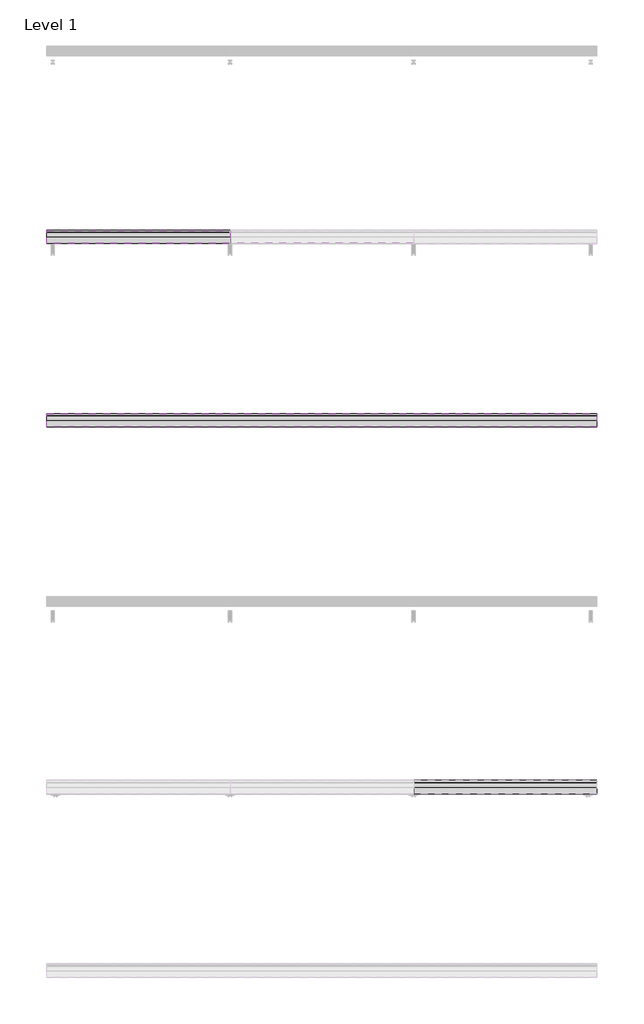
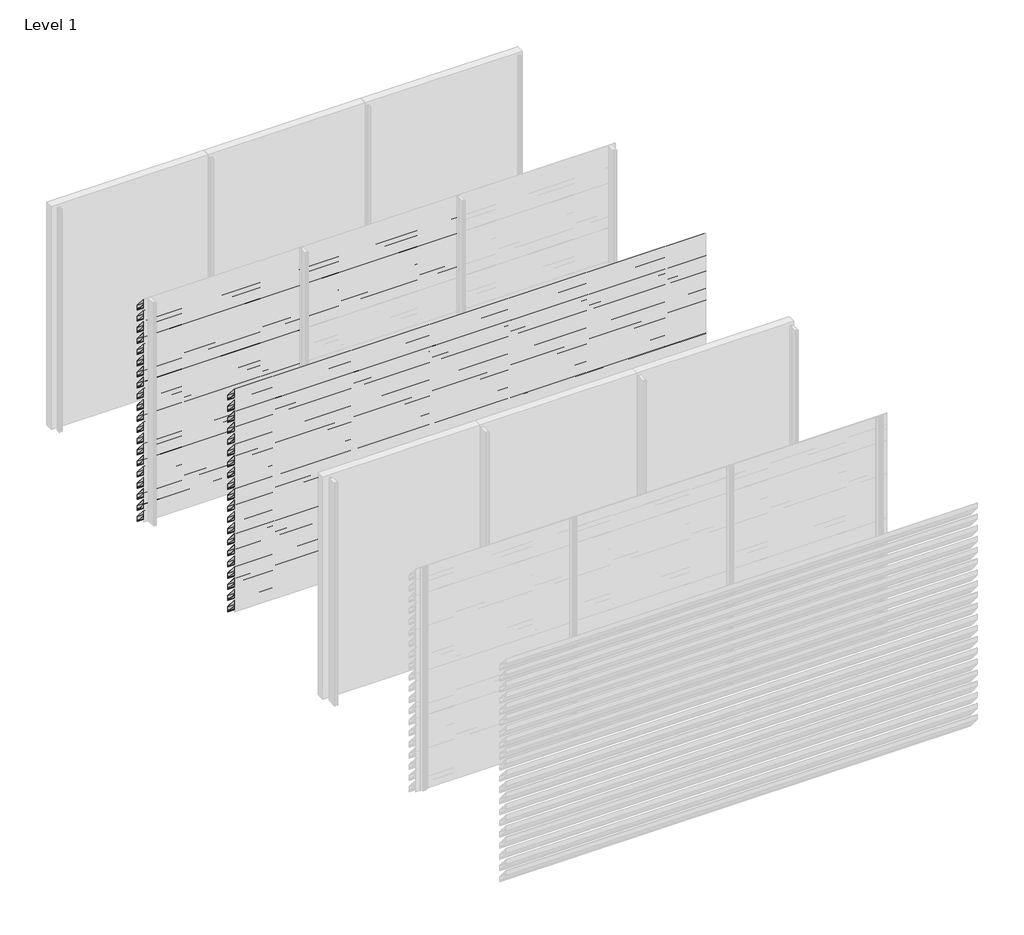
# One storey, part 4 of 16: 56 proxies.
"""IFC4 building model written with IfcOpenShell, lengths in millimetres."""

from ifc_helpers import new_model, si_unit, frame, origin, place, context, project, spatial, polyline, outline, extrude, element, save

model = new_model("IFC4")

# Units and contexts
model_context = context("Model", 3, world=origin())
ifc_project = project(units=[si_unit("LENGTHUNIT", "METRE", prefix="MILLI")], contexts=[model_context])

# Site, building, storey
site = spatial("IfcSite", under=ifc_project)
building = spatial("IfcBuilding", under=site)
storey = spatial("IfcBuildingStorey", under=building, Name="Level 1", Elevation=0.0)

# Proxies
placement = place(None, origin())
element("IfcBuildingElementProxy", 1, Name="Wall Sweeps", at=placement, inside=storey, context=model_context, shape_type="SweptSolid", body=[
    extrude(outline(polyline([(-47851.0, 2830.0), (-47851.0, 2761.0), (-47853.5, 2762.1657691), (-47853.5, 2775.7059843), (-47870.2498671, 2795.6676986), (-47880.9351065, 2795.6676986), (-47998.0, 2935.1802059), (-47998.0, 3000.0), (-47993.6469373, 3000.0), (-47851.0, 2830.0)]), holes=[polyline([(-47996.1, 2998.1), (-47996.1, 2935.8717493), (-47880.049122, 2797.5676986), (-47869.3638825, 2797.5676986), (-47852.9, 2777.9468074), (-47852.9, 2829.3084566), (-47994.5329219, 2998.1), (-47996.1, 2998.1)])]), frame((0.0, 0.0, 0.0), z_axis=(1.0, 0.0, 0.0), x_axis=(0.0, 1.0, 0.0)), (0.0, 0.0, 1.0), 2000.0),
])
element("IfcBuildingElementProxy", 2, Name="Wall Sweeps", at=placement, inside=storey, context=model_context, shape_type="SweptSolid", body=[
    extrude(outline(polyline([(-47851.0, 2680.0), (-47851.0, 2611.0), (-47853.5, 2612.1657691), (-47853.5, 2625.7059843), (-47870.2498671, 2645.6676986), (-47880.9351065, 2645.6676986), (-47998.0, 2785.1802059), (-47998.0, 2850.0), (-47993.6469373, 2850.0), (-47851.0, 2680.0)]), holes=[polyline([(-47996.1, 2848.1), (-47996.1, 2785.8717493), (-47880.049122, 2647.5676986), (-47869.3638825, 2647.5676986), (-47852.9, 2627.9468074), (-47852.9, 2679.3084566), (-47994.5329219, 2848.1), (-47996.1, 2848.1)])]), frame((0.0, 0.0, 0.0), z_axis=(1.0, 0.0, 0.0), x_axis=(0.0, 1.0, 0.0)), (0.0, 0.0, 1.0), 2000.0),
])
element("IfcBuildingElementProxy", 3, Name="Wall Sweeps", at=placement, inside=storey, context=model_context, shape_type="SweptSolid", body=[
    extrude(outline(polyline([(-47851.0, 2530.0), (-47851.0, 2461.0), (-47853.5, 2462.1657691), (-47853.5, 2475.7059843), (-47870.2498671, 2495.6676986), (-47880.9351065, 2495.6676986), (-47998.0, 2635.1802059), (-47998.0, 2700.0), (-47993.6469373, 2700.0), (-47851.0, 2530.0)]), holes=[polyline([(-47996.1, 2698.1), (-47996.1, 2635.8717493), (-47880.049122, 2497.5676986), (-47869.3638825, 2497.5676986), (-47852.9, 2477.9468074), (-47852.9, 2529.3084566), (-47994.5329219, 2698.1), (-47996.1, 2698.1)])]), frame((0.0, 0.0, 0.0), z_axis=(1.0, 0.0, 0.0), x_axis=(0.0, 1.0, 0.0)), (0.0, 0.0, 1.0), 2000.0),
])
element("IfcBuildingElementProxy", 4, Name="Wall Sweeps", at=placement, inside=storey, context=model_context, shape_type="SweptSolid", body=[
    extrude(outline(polyline([(-47851.0, 2380.0), (-47851.0, 2311.0), (-47853.5, 2312.1657691), (-47853.5, 2325.7059843), (-47870.2498671, 2345.6676986), (-47880.9351065, 2345.6676986), (-47998.0, 2485.1802059), (-47998.0, 2550.0), (-47993.6469373, 2550.0), (-47851.0, 2380.0)]), holes=[polyline([(-47996.1, 2548.1), (-47996.1, 2485.8717493), (-47880.049122, 2347.5676986), (-47869.3638825, 2347.5676986), (-47852.9, 2327.9468074), (-47852.9, 2379.3084566), (-47994.5329219, 2548.1), (-47996.1, 2548.1)])]), frame((0.0, 0.0, 0.0), z_axis=(1.0, 0.0, 0.0), x_axis=(0.0, 1.0, 0.0)), (0.0, 0.0, 1.0), 2000.0),
])
element("IfcBuildingElementProxy", 5, Name="Wall Sweeps", at=placement, inside=storey, context=model_context, shape_type="SweptSolid", body=[
    extrude(outline(polyline([(-47851.0, 2230.0), (-47851.0, 2161.0), (-47853.5, 2162.1657691), (-47853.5, 2175.7059843), (-47870.2498671, 2195.6676986), (-47880.9351065, 2195.6676986), (-47998.0, 2335.1802059), (-47998.0, 2400.0), (-47993.6469373, 2400.0), (-47851.0, 2230.0)]), holes=[polyline([(-47996.1, 2398.1), (-47996.1, 2335.8717493), (-47880.049122, 2197.5676986), (-47869.3638825, 2197.5676986), (-47852.9, 2177.9468074), (-47852.9, 2229.3084566), (-47994.5329219, 2398.1), (-47996.1, 2398.1)])]), frame((0.0, 0.0, 0.0), z_axis=(1.0, 0.0, 0.0), x_axis=(0.0, 1.0, 0.0)), (0.0, 0.0, 1.0), 2000.0),
])
element("IfcBuildingElementProxy", 6, Name="Wall Sweeps", at=placement, inside=storey, context=model_context, shape_type="SweptSolid", body=[
    extrude(outline(polyline([(-47851.0, 2080.0), (-47851.0, 2011.0), (-47853.5, 2012.1657691), (-47853.5, 2025.7059843), (-47870.2498671, 2045.6676986), (-47880.9351065, 2045.6676986), (-47998.0, 2185.1802059), (-47998.0, 2250.0), (-47993.6469373, 2250.0), (-47851.0, 2080.0)]), holes=[polyline([(-47996.1, 2248.1), (-47996.1, 2185.8717493), (-47880.049122, 2047.5676986), (-47869.3638825, 2047.5676986), (-47852.9, 2027.9468074), (-47852.9, 2079.3084566), (-47994.5329219, 2248.1), (-47996.1, 2248.1)])]), frame((0.0, 0.0, 0.0), z_axis=(1.0, 0.0, 0.0), x_axis=(0.0, 1.0, 0.0)), (0.0, 0.0, 1.0), 2000.0),
])
element("IfcBuildingElementProxy", 7, Name="Wall Sweeps", at=placement, inside=storey, context=model_context, shape_type="SweptSolid", body=[
    extrude(outline(polyline([(-47851.0, 1930.0), (-47851.0, 1861.0), (-47853.5, 1862.1657691), (-47853.5, 1875.7059843), (-47870.2498671, 1895.6676986), (-47880.9351065, 1895.6676986), (-47998.0, 2035.1802059), (-47998.0, 2100.0), (-47993.6469373, 2100.0), (-47851.0, 1930.0)]), holes=[polyline([(-47996.1, 2098.1), (-47996.1, 2035.8717493), (-47880.049122, 1897.5676986), (-47869.3638825, 1897.5676986), (-47852.9, 1877.9468074), (-47852.9, 1929.3084566), (-47994.5329219, 2098.1), (-47996.1, 2098.1)])]), frame((0.0, 0.0, 0.0), z_axis=(1.0, 0.0, 0.0), x_axis=(0.0, 1.0, 0.0)), (0.0, 0.0, 1.0), 2000.0),
])
element("IfcBuildingElementProxy", 8, Name="Wall Sweeps", at=placement, inside=storey, context=model_context, shape_type="SweptSolid", body=[
    extrude(outline(polyline([(-47851.0, 1780.0), (-47851.0, 1711.0), (-47853.5, 1712.1657691), (-47853.5, 1725.7059843), (-47870.2498671, 1745.6676986), (-47880.9351065, 1745.6676986), (-47998.0, 1885.1802059), (-47998.0, 1950.0), (-47993.6469373, 1950.0), (-47851.0, 1780.0)]), holes=[polyline([(-47996.1, 1948.1), (-47996.1, 1885.8717493), (-47880.049122, 1747.5676986), (-47869.3638825, 1747.5676986), (-47852.9, 1727.9468074), (-47852.9, 1779.3084566), (-47994.5329219, 1948.1), (-47996.1, 1948.1)])]), frame((0.0, 0.0, 0.0), z_axis=(1.0, 0.0, 0.0), x_axis=(0.0, 1.0, 0.0)), (0.0, 0.0, 1.0), 2000.0),
])
element("IfcBuildingElementProxy", 9, Name="Wall Sweeps", at=placement, inside=storey, context=model_context, shape_type="SweptSolid", body=[
    extrude(outline(polyline([(-47851.0, 1630.0), (-47851.0, 1561.0), (-47853.5, 1562.1657691), (-47853.5, 1575.7059843), (-47870.2498671, 1595.6676986), (-47880.9351065, 1595.6676986), (-47998.0, 1735.1802059), (-47998.0, 1800.0), (-47993.6469373, 1800.0), (-47851.0, 1630.0)]), holes=[polyline([(-47996.1, 1798.1), (-47996.1, 1735.8717493), (-47880.049122, 1597.5676986), (-47869.3638825, 1597.5676986), (-47852.9, 1577.9468074), (-47852.9, 1629.3084566), (-47994.5329219, 1798.1), (-47996.1, 1798.1)])]), frame((0.0, 0.0, 0.0), z_axis=(1.0, 0.0, 0.0), x_axis=(0.0, 1.0, 0.0)), (0.0, 0.0, 1.0), 2000.0),
])
element("IfcBuildingElementProxy", 10, Name="Wall Sweeps", at=placement, inside=storey, context=model_context, shape_type="SweptSolid", body=[
    extrude(outline(polyline([(-47851.0, 1480.0), (-47851.0, 1411.0), (-47853.5, 1412.1657691), (-47853.5, 1425.7059843), (-47870.2498671, 1445.6676986), (-47880.9351065, 1445.6676986), (-47998.0, 1585.1802059), (-47998.0, 1650.0), (-47993.6469373, 1650.0), (-47851.0, 1480.0)]), holes=[polyline([(-47996.1, 1648.1), (-47996.1, 1585.8717493), (-47880.049122, 1447.5676986), (-47869.3638825, 1447.5676986), (-47852.9, 1427.9468074), (-47852.9, 1479.3084566), (-47994.5329219, 1648.1), (-47996.1, 1648.1)])]), frame((0.0, 0.0, 0.0), z_axis=(1.0, 0.0, 0.0), x_axis=(0.0, 1.0, 0.0)), (0.0, 0.0, 1.0), 2000.0),
])
element("IfcBuildingElementProxy", 11, Name="Wall Sweeps", at=placement, inside=storey, context=model_context, shape_type="SweptSolid", body=[
    extrude(outline(polyline([(-47851.0, 1330.0), (-47851.0, 1261.0), (-47853.5, 1262.1657691), (-47853.5, 1275.7059843), (-47870.2498671, 1295.6676986), (-47880.9351065, 1295.6676986), (-47998.0, 1435.1802059), (-47998.0, 1500.0), (-47993.6469373, 1500.0), (-47851.0, 1330.0)]), holes=[polyline([(-47996.1, 1498.1), (-47996.1, 1435.8717493), (-47880.049122, 1297.5676986), (-47869.3638825, 1297.5676986), (-47852.9, 1277.9468074), (-47852.9, 1329.3084566), (-47994.5329219, 1498.1), (-47996.1, 1498.1)])]), frame((0.0, 0.0, 0.0), z_axis=(1.0, 0.0, 0.0), x_axis=(0.0, 1.0, 0.0)), (0.0, 0.0, 1.0), 2000.0),
])
element("IfcBuildingElementProxy", 12, Name="Wall Sweeps", at=placement, inside=storey, context=model_context, shape_type="SweptSolid", body=[
    extrude(outline(polyline([(-47851.0, 1180.0), (-47851.0, 1111.0), (-47853.5, 1112.1657691), (-47853.5, 1125.7059843), (-47870.2498671, 1145.6676986), (-47880.9351065, 1145.6676986), (-47998.0, 1285.1802059), (-47998.0, 1350.0), (-47993.6469373, 1350.0), (-47851.0, 1180.0)]), holes=[polyline([(-47996.1, 1348.1), (-47996.1, 1285.8717493), (-47880.049122, 1147.5676986), (-47869.3638825, 1147.5676986), (-47852.9, 1127.9468074), (-47852.9, 1179.3084566), (-47994.5329219, 1348.1), (-47996.1, 1348.1)])]), frame((0.0, 0.0, 0.0), z_axis=(1.0, 0.0, 0.0), x_axis=(0.0, 1.0, 0.0)), (0.0, 0.0, 1.0), 2000.0),
])
element("IfcBuildingElementProxy", 13, Name="Wall Sweeps", at=placement, inside=storey, context=model_context, shape_type="SweptSolid", body=[
    extrude(outline(polyline([(-47851.0, 1030.0), (-47851.0, 961.0), (-47853.5, 962.1657691), (-47853.5, 975.7059843), (-47870.2498671, 995.6676986), (-47880.9351065, 995.6676986), (-47998.0, 1135.1802059), (-47998.0, 1200.0), (-47993.6469373, 1200.0), (-47851.0, 1030.0)]), holes=[polyline([(-47996.1, 1198.1), (-47996.1, 1135.8717493), (-47880.049122, 997.5676986), (-47869.3638825, 997.5676986), (-47852.9, 977.9468074), (-47852.9, 1029.3084566), (-47994.5329219, 1198.1), (-47996.1, 1198.1)])]), frame((0.0, 0.0, 0.0), z_axis=(1.0, 0.0, 0.0), x_axis=(0.0, 1.0, 0.0)), (0.0, 0.0, 1.0), 2000.0),
])
element("IfcBuildingElementProxy", 14, Name="Wall Sweeps", at=placement, inside=storey, context=model_context, shape_type="SweptSolid", body=[
    extrude(outline(polyline([(-47851.0, 880.0), (-47851.0, 811.0), (-47853.5, 812.1657691), (-47853.5, 825.7059843), (-47870.2498671, 845.6676986), (-47880.9351065, 845.6676986), (-47998.0, 985.1802059), (-47998.0, 1050.0), (-47993.6469373, 1050.0), (-47851.0, 880.0)]), holes=[polyline([(-47996.1, 1048.1), (-47996.1, 985.8717493), (-47880.049122, 847.5676986), (-47869.3638825, 847.5676986), (-47852.9, 827.9468074), (-47852.9, 879.3084566), (-47994.5329219, 1048.1), (-47996.1, 1048.1)])]), frame((0.0, 0.0, 0.0), z_axis=(1.0, 0.0, 0.0), x_axis=(0.0, 1.0, 0.0)), (0.0, 0.0, 1.0), 2000.0),
])
element("IfcBuildingElementProxy", 15, Name="Wall Sweeps", at=placement, inside=storey, context=model_context, shape_type="SweptSolid", body=[
    extrude(outline(polyline([(-47851.0, 730.0), (-47851.0, 661.0), (-47853.5, 662.1657691), (-47853.5, 675.7059843), (-47870.2498671, 695.6676986), (-47880.9351065, 695.6676986), (-47998.0, 835.1802059), (-47998.0, 900.0), (-47993.6469373, 900.0), (-47851.0, 730.0)]), holes=[polyline([(-47996.1, 898.1), (-47996.1, 835.8717493), (-47880.049122, 697.5676986), (-47869.3638825, 697.5676986), (-47852.9, 677.9468074), (-47852.9, 729.3084566), (-47994.5329219, 898.1), (-47996.1, 898.1)])]), frame((0.0, 0.0, 0.0), z_axis=(1.0, 0.0, 0.0), x_axis=(0.0, 1.0, 0.0)), (0.0, 0.0, 1.0), 2000.0),
])
element("IfcBuildingElementProxy", 16, Name="Wall Sweeps", at=placement, inside=storey, context=model_context, shape_type="SweptSolid", body=[
    extrude(outline(polyline([(-47851.0, 580.0), (-47851.0, 511.0), (-47853.5, 512.1657691), (-47853.5, 525.7059843), (-47870.2498671, 545.6676986), (-47880.9351065, 545.6676986), (-47998.0, 685.1802059), (-47998.0, 750.0), (-47993.6469373, 750.0), (-47851.0, 580.0)]), holes=[polyline([(-47996.1, 748.1), (-47996.1, 685.8717493), (-47880.049122, 547.5676986), (-47869.3638825, 547.5676986), (-47852.9, 527.9468074), (-47852.9, 579.3084566), (-47994.5329219, 748.1), (-47996.1, 748.1)])]), frame((0.0, 0.0, 0.0), z_axis=(1.0, 0.0, 0.0), x_axis=(0.0, 1.0, 0.0)), (0.0, 0.0, 1.0), 2000.0),
])
element("IfcBuildingElementProxy", 17, Name="Wall Sweeps", at=placement, inside=storey, context=model_context, shape_type="SweptSolid", body=[
    extrude(outline(polyline([(-47851.0, 430.0), (-47851.0, 361.0), (-47853.5, 362.1657691), (-47853.5, 375.7059843), (-47870.2498671, 395.6676986), (-47880.9351065, 395.6676986), (-47998.0, 535.1802059), (-47998.0, 600.0), (-47993.6469373, 600.0), (-47851.0, 430.0)]), holes=[polyline([(-47996.1, 598.1), (-47996.1, 535.8717493), (-47880.049122, 397.5676986), (-47869.3638825, 397.5676986), (-47852.9, 377.9468074), (-47852.9, 429.3084566), (-47994.5329219, 598.1), (-47996.1, 598.1)])]), frame((0.0, 0.0, 0.0), z_axis=(1.0, 0.0, 0.0), x_axis=(0.0, 1.0, 0.0)), (0.0, 0.0, 1.0), 2000.0),
])
element("IfcBuildingElementProxy", 18, Name="Wall Sweeps", at=placement, inside=storey, context=model_context, shape_type="SweptSolid", body=[
    extrude(outline(polyline([(-47851.0, 280.0), (-47851.0, 211.0), (-47853.5, 212.1657691), (-47853.5, 225.7059843), (-47870.2498671, 245.6676986), (-47880.9351065, 245.6676986), (-47998.0, 385.1802059), (-47998.0, 450.0), (-47993.6469373, 450.0), (-47851.0, 280.0)]), holes=[polyline([(-47996.1, 448.1), (-47996.1, 385.8717493), (-47880.049122, 247.5676986), (-47869.3638825, 247.5676986), (-47852.9, 227.9468074), (-47852.9, 279.3084566), (-47994.5329219, 448.1), (-47996.1, 448.1)])]), frame((0.0, 0.0, 0.0), z_axis=(1.0, 0.0, 0.0), x_axis=(0.0, 1.0, 0.0)), (0.0, 0.0, 1.0), 2000.0),
])
element("IfcBuildingElementProxy", 19, Name="Wall Sweeps", at=placement, inside=storey, context=model_context, shape_type="SweptSolid", body=[
    extrude(outline(polyline([(-47851.0, 130.0), (-47851.0, 61.0), (-47853.5, 62.1657691), (-47853.5, 75.7059843), (-47870.2498671, 95.6676986), (-47880.9351065, 95.6676986), (-47998.0, 235.1802059), (-47998.0, 300.0), (-47993.6469373, 300.0), (-47851.0, 130.0)]), holes=[polyline([(-47996.1, 298.1), (-47996.1, 235.8717493), (-47880.049122, 97.5676986), (-47869.3638825, 97.5676986), (-47852.9, 77.9468074), (-47852.9, 129.3084566), (-47994.5329219, 298.1), (-47996.1, 298.1)])]), frame((0.0, 0.0, 0.0), z_axis=(1.0, 0.0, 0.0), x_axis=(0.0, 1.0, 0.0)), (0.0, 0.0, 1.0), 2000.0),
])
element("IfcBuildingElementProxy", 20, Name="Wall Sweeps", at=placement, inside=storey, context=model_context, shape_type="SweptSolid", body=[
    extrude(outline(polyline([(-47851.0, -20.0), (-47851.0, -89.0), (-47853.5, -87.8342309), (-47853.5, -74.2940157), (-47870.2498671, -54.3323014), (-47880.9351065, -54.3323014), (-47998.0, 85.1802059), (-47998.0, 150.0), (-47993.6469373, 150.0), (-47851.0, -20.0)]), holes=[polyline([(-47996.1, 148.1), (-47996.1, 85.8717493), (-47880.049122, -52.4323014), (-47869.3638825, -52.4323014), (-47852.9, -72.0531926), (-47852.9, -20.6915434), (-47994.5329219, 148.1), (-47996.1, 148.1)])]), frame((0.0, 0.0, 0.0), z_axis=(1.0, 0.0, 0.0), x_axis=(0.0, 1.0, 0.0)), (0.0, 0.0, 1.0), 2000.0),
])
element("IfcBuildingElementProxy", 21, Name="Wall Sweeps", at=placement, inside=storey, context=model_context, shape_type="SweptSolid", body=[
    extrude(outline(polyline([(-47851.0, 2830.0), (-47851.0, 2761.0), (-47853.5, 2762.1657691), (-47853.5, 2775.7059843), (-47870.2498671, 2795.6676986), (-47880.9351065, 2795.6676986), (-47998.0, 2935.1802059), (-47998.0, 3000.0), (-47993.6469373, 3000.0), (-47851.0, 2830.0)]), holes=[polyline([(-47996.1, 2998.1), (-47996.1, 2935.8717493), (-47880.049122, 2797.5676986), (-47869.3638825, 2797.5676986), (-47852.9, 2777.9468074), (-47852.9, 2829.3084566), (-47994.5329219, 2998.1), (-47996.1, 2998.1)])]), frame((2000.0, 0.0, 0.0), z_axis=(1.0, 0.0, 0.0), x_axis=(0.0, 1.0, 0.0)), (0.0, 0.0, 1.0), 2000.0),
])
element("IfcBuildingElementProxy", 22, Name="Wall Sweeps", at=placement, inside=storey, context=model_context, shape_type="SweptSolid", body=[
    extrude(outline(polyline([(-47851.0, 2680.0), (-47851.0, 2611.0), (-47853.5, 2612.1657691), (-47853.5, 2625.7059843), (-47870.2498671, 2645.6676986), (-47880.9351065, 2645.6676986), (-47998.0, 2785.1802059), (-47998.0, 2850.0), (-47993.6469373, 2850.0), (-47851.0, 2680.0)]), holes=[polyline([(-47996.1, 2848.1), (-47996.1, 2785.8717493), (-47880.049122, 2647.5676986), (-47869.3638825, 2647.5676986), (-47852.9, 2627.9468074), (-47852.9, 2679.3084566), (-47994.5329219, 2848.1), (-47996.1, 2848.1)])]), frame((2000.0, 0.0, 0.0), z_axis=(1.0, 0.0, 0.0), x_axis=(0.0, 1.0, 0.0)), (0.0, 0.0, 1.0), 2000.0),
])
element("IfcBuildingElementProxy", 23, Name="Wall Sweeps", at=placement, inside=storey, context=model_context, shape_type="SweptSolid", body=[
    extrude(outline(polyline([(-47851.0, 2530.0), (-47851.0, 2461.0), (-47853.5, 2462.1657691), (-47853.5, 2475.7059843), (-47870.2498671, 2495.6676986), (-47880.9351065, 2495.6676986), (-47998.0, 2635.1802059), (-47998.0, 2700.0), (-47993.6469373, 2700.0), (-47851.0, 2530.0)]), holes=[polyline([(-47996.1, 2698.1), (-47996.1, 2635.8717493), (-47880.049122, 2497.5676986), (-47869.3638825, 2497.5676986), (-47852.9, 2477.9468074), (-47852.9, 2529.3084566), (-47994.5329219, 2698.1), (-47996.1, 2698.1)])]), frame((2000.0, 0.0, 0.0), z_axis=(1.0, 0.0, 0.0), x_axis=(0.0, 1.0, 0.0)), (0.0, 0.0, 1.0), 2000.0),
])
element("IfcBuildingElementProxy", 24, Name="Wall Sweeps", at=placement, inside=storey, context=model_context, shape_type="SweptSolid", body=[
    extrude(outline(polyline([(-47851.0, 2380.0), (-47851.0, 2311.0), (-47853.5, 2312.1657691), (-47853.5, 2325.7059843), (-47870.2498671, 2345.6676986), (-47880.9351065, 2345.6676986), (-47998.0, 2485.1802059), (-47998.0, 2550.0), (-47993.6469373, 2550.0), (-47851.0, 2380.0)]), holes=[polyline([(-47996.1, 2548.1), (-47996.1, 2485.8717493), (-47880.049122, 2347.5676986), (-47869.3638825, 2347.5676986), (-47852.9, 2327.9468074), (-47852.9, 2379.3084566), (-47994.5329219, 2548.1), (-47996.1, 2548.1)])]), frame((2000.0, 0.0, 0.0), z_axis=(1.0, 0.0, 0.0), x_axis=(0.0, 1.0, 0.0)), (0.0, 0.0, 1.0), 2000.0),
])
element("IfcBuildingElementProxy", 25, Name="Wall Sweeps", at=placement, inside=storey, context=model_context, shape_type="SweptSolid", body=[
    extrude(outline(polyline([(-47851.0, 2230.0), (-47851.0, 2161.0), (-47853.5, 2162.1657691), (-47853.5, 2175.7059843), (-47870.2498671, 2195.6676986), (-47880.9351065, 2195.6676986), (-47998.0, 2335.1802059), (-47998.0, 2400.0), (-47993.6469373, 2400.0), (-47851.0, 2230.0)]), holes=[polyline([(-47996.1, 2398.1), (-47996.1, 2335.8717493), (-47880.049122, 2197.5676986), (-47869.3638825, 2197.5676986), (-47852.9, 2177.9468074), (-47852.9, 2229.3084566), (-47994.5329219, 2398.1), (-47996.1, 2398.1)])]), frame((2000.0, 0.0, 0.0), z_axis=(1.0, 0.0, 0.0), x_axis=(0.0, 1.0, 0.0)), (0.0, 0.0, 1.0), 2000.0),
])
element("IfcBuildingElementProxy", 26, Name="Wall Sweeps", at=placement, inside=storey, context=model_context, shape_type="SweptSolid", body=[
    extrude(outline(polyline([(-47851.0, 2080.0), (-47851.0, 2011.0), (-47853.5, 2012.1657691), (-47853.5, 2025.7059843), (-47870.2498671, 2045.6676986), (-47880.9351065, 2045.6676986), (-47998.0, 2185.1802059), (-47998.0, 2250.0), (-47993.6469373, 2250.0), (-47851.0, 2080.0)]), holes=[polyline([(-47996.1, 2248.1), (-47996.1, 2185.8717493), (-47880.049122, 2047.5676986), (-47869.3638825, 2047.5676986), (-47852.9, 2027.9468074), (-47852.9, 2079.3084566), (-47994.5329219, 2248.1), (-47996.1, 2248.1)])]), frame((2000.0, 0.0, 0.0), z_axis=(1.0, 0.0, 0.0), x_axis=(0.0, 1.0, 0.0)), (0.0, 0.0, 1.0), 2000.0),
])
element("IfcBuildingElementProxy", 27, Name="Wall Sweeps", at=placement, inside=storey, context=model_context, shape_type="SweptSolid", body=[
    extrude(outline(polyline([(-47851.0, 1930.0), (-47851.0, 1861.0), (-47853.5, 1862.1657691), (-47853.5, 1875.7059843), (-47870.2498671, 1895.6676986), (-47880.9351065, 1895.6676986), (-47998.0, 2035.1802059), (-47998.0, 2100.0), (-47993.6469373, 2100.0), (-47851.0, 1930.0)]), holes=[polyline([(-47996.1, 2098.1), (-47996.1, 2035.8717493), (-47880.049122, 1897.5676986), (-47869.3638825, 1897.5676986), (-47852.9, 1877.9468074), (-47852.9, 1929.3084566), (-47994.5329219, 2098.1), (-47996.1, 2098.1)])]), frame((2000.0, 0.0, 0.0), z_axis=(1.0, 0.0, 0.0), x_axis=(0.0, 1.0, 0.0)), (0.0, 0.0, 1.0), 2000.0),
])
element("IfcBuildingElementProxy", 28, Name="Wall Sweeps", at=placement, inside=storey, context=model_context, shape_type="SweptSolid", body=[
    extrude(outline(polyline([(-49851.0, 2830.0), (-49851.0, 2761.0), (-49853.5, 2762.1657691), (-49853.5, 2775.7059843), (-49870.2498671, 2795.6676986), (-49880.9351065, 2795.6676986), (-49998.0, 2935.1802059), (-49998.0, 3000.0), (-49993.6469373, 3000.0), (-49851.0, 2830.0)]), holes=[polyline([(-49996.1, 2998.1), (-49996.1, 2935.8717493), (-49880.049122, 2797.5676986), (-49869.3638825, 2797.5676986), (-49852.9, 2777.9468074), (-49852.9, 2829.3084566), (-49994.5329219, 2998.1), (-49996.1, 2998.1)])]), frame((0.0, 0.0, 0.0), z_axis=(1.0, 0.0, 0.0), x_axis=(0.0, 1.0, 0.0)), (0.0, 0.0, 1.0), 6000.0),
])
element("IfcBuildingElementProxy", 29, Name="Wall Sweeps", at=placement, inside=storey, context=model_context, shape_type="SweptSolid", body=[
    extrude(outline(polyline([(-49851.0, 2680.0), (-49851.0, 2611.0), (-49853.5, 2612.1657691), (-49853.5, 2625.7059843), (-49870.2498671, 2645.6676986), (-49880.9351065, 2645.6676986), (-49998.0, 2785.1802059), (-49998.0, 2850.0), (-49993.6469373, 2850.0), (-49851.0, 2680.0)]), holes=[polyline([(-49996.1, 2848.1), (-49996.1, 2785.8717493), (-49880.049122, 2647.5676986), (-49869.3638825, 2647.5676986), (-49852.9, 2627.9468074), (-49852.9, 2679.3084566), (-49994.5329219, 2848.1), (-49996.1, 2848.1)])]), frame((0.0, 0.0, 0.0), z_axis=(1.0, 0.0, 0.0), x_axis=(0.0, 1.0, 0.0)), (0.0, 0.0, 1.0), 6000.0),
])
element("IfcBuildingElementProxy", 30, Name="Wall Sweeps", at=placement, inside=storey, context=model_context, shape_type="SweptSolid", body=[
    extrude(outline(polyline([(-49851.0, 2530.0), (-49851.0, 2461.0), (-49853.5, 2462.1657691), (-49853.5, 2475.7059843), (-49870.2498671, 2495.6676986), (-49880.9351065, 2495.6676986), (-49998.0, 2635.1802059), (-49998.0, 2700.0), (-49993.6469373, 2700.0), (-49851.0, 2530.0)]), holes=[polyline([(-49996.1, 2698.1), (-49996.1, 2635.8717493), (-49880.049122, 2497.5676986), (-49869.3638825, 2497.5676986), (-49852.9, 2477.9468074), (-49852.9, 2529.3084566), (-49994.5329219, 2698.1), (-49996.1, 2698.1)])]), frame((0.0, 0.0, 0.0), z_axis=(1.0, 0.0, 0.0), x_axis=(0.0, 1.0, 0.0)), (0.0, 0.0, 1.0), 6000.0),
])
element("IfcBuildingElementProxy", 31, Name="Wall Sweeps", at=placement, inside=storey, context=model_context, shape_type="SweptSolid", body=[
    extrude(outline(polyline([(-49851.0, 2380.0), (-49851.0, 2311.0), (-49853.5, 2312.1657691), (-49853.5, 2325.7059843), (-49870.2498671, 2345.6676986), (-49880.9351065, 2345.6676986), (-49998.0, 2485.1802059), (-49998.0, 2550.0), (-49993.6469373, 2550.0), (-49851.0, 2380.0)]), holes=[polyline([(-49996.1, 2548.1), (-49996.1, 2485.8717493), (-49880.049122, 2347.5676986), (-49869.3638825, 2347.5676986), (-49852.9, 2327.9468074), (-49852.9, 2379.3084566), (-49994.5329219, 2548.1), (-49996.1, 2548.1)])]), frame((0.0, 0.0, 0.0), z_axis=(1.0, 0.0, 0.0), x_axis=(0.0, 1.0, 0.0)), (0.0, 0.0, 1.0), 6000.0),
])
element("IfcBuildingElementProxy", 32, Name="Wall Sweeps", at=placement, inside=storey, context=model_context, shape_type="SweptSolid", body=[
    extrude(outline(polyline([(-49851.0, 2230.0), (-49851.0, 2161.0), (-49853.5, 2162.1657691), (-49853.5, 2175.7059843), (-49870.2498671, 2195.6676986), (-49880.9351065, 2195.6676986), (-49998.0, 2335.1802059), (-49998.0, 2400.0), (-49993.6469373, 2400.0), (-49851.0, 2230.0)]), holes=[polyline([(-49996.1, 2398.1), (-49996.1, 2335.8717493), (-49880.049122, 2197.5676986), (-49869.3638825, 2197.5676986), (-49852.9, 2177.9468074), (-49852.9, 2229.3084566), (-49994.5329219, 2398.1), (-49996.1, 2398.1)])]), frame((0.0, 0.0, 0.0), z_axis=(1.0, 0.0, 0.0), x_axis=(0.0, 1.0, 0.0)), (0.0, 0.0, 1.0), 6000.0),
])
element("IfcBuildingElementProxy", 33, Name="Wall Sweeps", at=placement, inside=storey, context=model_context, shape_type="SweptSolid", body=[
    extrude(outline(polyline([(-49851.0, 2080.0), (-49851.0, 2011.0), (-49853.5, 2012.1657691), (-49853.5, 2025.7059843), (-49870.2498671, 2045.6676986), (-49880.9351065, 2045.6676986), (-49998.0, 2185.1802059), (-49998.0, 2250.0), (-49993.6469373, 2250.0), (-49851.0, 2080.0)]), holes=[polyline([(-49996.1, 2248.1), (-49996.1, 2185.8717493), (-49880.049122, 2047.5676986), (-49869.3638825, 2047.5676986), (-49852.9, 2027.9468074), (-49852.9, 2079.3084566), (-49994.5329219, 2248.1), (-49996.1, 2248.1)])]), frame((0.0, 0.0, 0.0), z_axis=(1.0, 0.0, 0.0), x_axis=(0.0, 1.0, 0.0)), (0.0, 0.0, 1.0), 6000.0),
])
element("IfcBuildingElementProxy", 34, Name="Wall Sweeps", at=placement, inside=storey, context=model_context, shape_type="SweptSolid", body=[
    extrude(outline(polyline([(-49851.0, 1930.0), (-49851.0, 1861.0), (-49853.5, 1862.1657691), (-49853.5, 1875.7059843), (-49870.2498671, 1895.6676986), (-49880.9351065, 1895.6676986), (-49998.0, 2035.1802059), (-49998.0, 2100.0), (-49993.6469373, 2100.0), (-49851.0, 1930.0)]), holes=[polyline([(-49996.1, 2098.1), (-49996.1, 2035.8717493), (-49880.049122, 1897.5676986), (-49869.3638825, 1897.5676986), (-49852.9, 1877.9468074), (-49852.9, 1929.3084566), (-49994.5329219, 2098.1), (-49996.1, 2098.1)])]), frame((0.0, 0.0, 0.0), z_axis=(1.0, 0.0, 0.0), x_axis=(0.0, 1.0, 0.0)), (0.0, 0.0, 1.0), 6000.0),
])
element("IfcBuildingElementProxy", 35, Name="Wall Sweeps", at=placement, inside=storey, context=model_context, shape_type="SweptSolid", body=[
    extrude(outline(polyline([(-49851.0, 1780.0), (-49851.0, 1711.0), (-49853.5, 1712.1657691), (-49853.5, 1725.7059843), (-49870.2498671, 1745.6676986), (-49880.9351065, 1745.6676986), (-49998.0, 1885.1802059), (-49998.0, 1950.0), (-49993.6469373, 1950.0), (-49851.0, 1780.0)]), holes=[polyline([(-49996.1, 1948.1), (-49996.1, 1885.8717493), (-49880.049122, 1747.5676986), (-49869.3638825, 1747.5676986), (-49852.9, 1727.9468074), (-49852.9, 1779.3084566), (-49994.5329219, 1948.1), (-49996.1, 1948.1)])]), frame((0.0, 0.0, 0.0), z_axis=(1.0, 0.0, 0.0), x_axis=(0.0, 1.0, 0.0)), (0.0, 0.0, 1.0), 6000.0),
])
element("IfcBuildingElementProxy", 36, Name="Wall Sweeps", at=placement, inside=storey, context=model_context, shape_type="SweptSolid", body=[
    extrude(outline(polyline([(-49851.0, 1630.0), (-49851.0, 1561.0), (-49853.5, 1562.1657691), (-49853.5, 1575.7059843), (-49870.2498671, 1595.6676986), (-49880.9351065, 1595.6676986), (-49998.0, 1735.1802059), (-49998.0, 1800.0), (-49993.6469373, 1800.0), (-49851.0, 1630.0)]), holes=[polyline([(-49996.1, 1798.1), (-49996.1, 1735.8717493), (-49880.049122, 1597.5676986), (-49869.3638825, 1597.5676986), (-49852.9, 1577.9468074), (-49852.9, 1629.3084566), (-49994.5329219, 1798.1), (-49996.1, 1798.1)])]), frame((0.0, 0.0, 0.0), z_axis=(1.0, 0.0, 0.0), x_axis=(0.0, 1.0, 0.0)), (0.0, 0.0, 1.0), 6000.0),
])
element("IfcBuildingElementProxy", 37, Name="Wall Sweeps", at=placement, inside=storey, context=model_context, shape_type="SweptSolid", body=[
    extrude(outline(polyline([(-49851.0, 1480.0), (-49851.0, 1411.0), (-49853.5, 1412.1657691), (-49853.5, 1425.7059843), (-49870.2498671, 1445.6676986), (-49880.9351065, 1445.6676986), (-49998.0, 1585.1802059), (-49998.0, 1650.0), (-49993.6469373, 1650.0), (-49851.0, 1480.0)]), holes=[polyline([(-49996.1, 1648.1), (-49996.1, 1585.8717493), (-49880.049122, 1447.5676986), (-49869.3638825, 1447.5676986), (-49852.9, 1427.9468074), (-49852.9, 1479.3084566), (-49994.5329219, 1648.1), (-49996.1, 1648.1)])]), frame((0.0, 0.0, 0.0), z_axis=(1.0, 0.0, 0.0), x_axis=(0.0, 1.0, 0.0)), (0.0, 0.0, 1.0), 6000.0),
])
element("IfcBuildingElementProxy", 38, Name="Wall Sweeps", at=placement, inside=storey, context=model_context, shape_type="SweptSolid", body=[
    extrude(outline(polyline([(-49851.0, 1330.0), (-49851.0, 1261.0), (-49853.5, 1262.1657691), (-49853.5, 1275.7059843), (-49870.2498671, 1295.6676986), (-49880.9351065, 1295.6676986), (-49998.0, 1435.1802059), (-49998.0, 1500.0), (-49993.6469373, 1500.0), (-49851.0, 1330.0)]), holes=[polyline([(-49996.1, 1498.1), (-49996.1, 1435.8717493), (-49880.049122, 1297.5676986), (-49869.3638825, 1297.5676986), (-49852.9, 1277.9468074), (-49852.9, 1329.3084566), (-49994.5329219, 1498.1), (-49996.1, 1498.1)])]), frame((0.0, 0.0, 0.0), z_axis=(1.0, 0.0, 0.0), x_axis=(0.0, 1.0, 0.0)), (0.0, 0.0, 1.0), 6000.0),
])
element("IfcBuildingElementProxy", 39, Name="Wall Sweeps", at=placement, inside=storey, context=model_context, shape_type="SweptSolid", body=[
    extrude(outline(polyline([(-49851.0, 1180.0), (-49851.0, 1111.0), (-49853.5, 1112.1657691), (-49853.5, 1125.7059843), (-49870.2498671, 1145.6676986), (-49880.9351065, 1145.6676986), (-49998.0, 1285.1802059), (-49998.0, 1350.0), (-49993.6469373, 1350.0), (-49851.0, 1180.0)]), holes=[polyline([(-49996.1, 1348.1), (-49996.1, 1285.8717493), (-49880.049122, 1147.5676986), (-49869.3638825, 1147.5676986), (-49852.9, 1127.9468074), (-49852.9, 1179.3084566), (-49994.5329219, 1348.1), (-49996.1, 1348.1)])]), frame((0.0, 0.0, 0.0), z_axis=(1.0, 0.0, 0.0), x_axis=(0.0, 1.0, 0.0)), (0.0, 0.0, 1.0), 6000.0),
])
element("IfcBuildingElementProxy", 40, Name="Wall Sweeps", at=placement, inside=storey, context=model_context, shape_type="SweptSolid", body=[
    extrude(outline(polyline([(-49851.0, 1030.0), (-49851.0, 961.0), (-49853.5, 962.1657691), (-49853.5, 975.7059843), (-49870.2498671, 995.6676986), (-49880.9351065, 995.6676986), (-49998.0, 1135.1802059), (-49998.0, 1200.0), (-49993.6469373, 1200.0), (-49851.0, 1030.0)]), holes=[polyline([(-49996.1, 1198.1), (-49996.1, 1135.8717493), (-49880.049122, 997.5676986), (-49869.3638825, 997.5676986), (-49852.9, 977.9468074), (-49852.9, 1029.3084566), (-49994.5329219, 1198.1), (-49996.1, 1198.1)])]), frame((0.0, 0.0, 0.0), z_axis=(1.0, 0.0, 0.0), x_axis=(0.0, 1.0, 0.0)), (0.0, 0.0, 1.0), 6000.0),
])
element("IfcBuildingElementProxy", 41, Name="Wall Sweeps", at=placement, inside=storey, context=model_context, shape_type="SweptSolid", body=[
    extrude(outline(polyline([(-49851.0, 880.0), (-49851.0, 811.0), (-49853.5, 812.1657691), (-49853.5, 825.7059843), (-49870.2498671, 845.6676986), (-49880.9351065, 845.6676986), (-49998.0, 985.1802059), (-49998.0, 1050.0), (-49993.6469373, 1050.0), (-49851.0, 880.0)]), holes=[polyline([(-49996.1, 1048.1), (-49996.1, 985.8717493), (-49880.049122, 847.5676986), (-49869.3638825, 847.5676986), (-49852.9, 827.9468074), (-49852.9, 879.3084566), (-49994.5329219, 1048.1), (-49996.1, 1048.1)])]), frame((0.0, 0.0, 0.0), z_axis=(1.0, 0.0, 0.0), x_axis=(0.0, 1.0, 0.0)), (0.0, 0.0, 1.0), 6000.0),
])
element("IfcBuildingElementProxy", 42, Name="Wall Sweeps", at=placement, inside=storey, context=model_context, shape_type="SweptSolid", body=[
    extrude(outline(polyline([(-49851.0, 730.0), (-49851.0, 661.0), (-49853.5, 662.1657691), (-49853.5, 675.7059843), (-49870.2498671, 695.6676986), (-49880.9351065, 695.6676986), (-49998.0, 835.1802059), (-49998.0, 900.0), (-49993.6469373, 900.0), (-49851.0, 730.0)]), holes=[polyline([(-49996.1, 898.1), (-49996.1, 835.8717493), (-49880.049122, 697.5676986), (-49869.3638825, 697.5676986), (-49852.9, 677.9468074), (-49852.9, 729.3084566), (-49994.5329219, 898.1), (-49996.1, 898.1)])]), frame((0.0, 0.0, 0.0), z_axis=(1.0, 0.0, 0.0), x_axis=(0.0, 1.0, 0.0)), (0.0, 0.0, 1.0), 6000.0),
])
element("IfcBuildingElementProxy", 43, Name="Wall Sweeps", at=placement, inside=storey, context=model_context, shape_type="SweptSolid", body=[
    extrude(outline(polyline([(-49851.0, 580.0), (-49851.0, 511.0), (-49853.5, 512.1657691), (-49853.5, 525.7059843), (-49870.2498671, 545.6676986), (-49880.9351065, 545.6676986), (-49998.0, 685.1802059), (-49998.0, 750.0), (-49993.6469373, 750.0), (-49851.0, 580.0)]), holes=[polyline([(-49996.1, 748.1), (-49996.1, 685.8717493), (-49880.049122, 547.5676986), (-49869.3638825, 547.5676986), (-49852.9, 527.9468074), (-49852.9, 579.3084566), (-49994.5329219, 748.1), (-49996.1, 748.1)])]), frame((0.0, 0.0, 0.0), z_axis=(1.0, 0.0, 0.0), x_axis=(0.0, 1.0, 0.0)), (0.0, 0.0, 1.0), 6000.0),
])
element("IfcBuildingElementProxy", 44, Name="Wall Sweeps", at=placement, inside=storey, context=model_context, shape_type="SweptSolid", body=[
    extrude(outline(polyline([(-49851.0, 430.0), (-49851.0, 361.0), (-49853.5, 362.1657691), (-49853.5, 375.7059843), (-49870.2498671, 395.6676986), (-49880.9351065, 395.6676986), (-49998.0, 535.1802059), (-49998.0, 600.0), (-49993.6469373, 600.0), (-49851.0, 430.0)]), holes=[polyline([(-49996.1, 598.1), (-49996.1, 535.8717493), (-49880.049122, 397.5676986), (-49869.3638825, 397.5676986), (-49852.9, 377.9468074), (-49852.9, 429.3084566), (-49994.5329219, 598.1), (-49996.1, 598.1)])]), frame((0.0, 0.0, 0.0), z_axis=(1.0, 0.0, 0.0), x_axis=(0.0, 1.0, 0.0)), (0.0, 0.0, 1.0), 6000.0),
])
element("IfcBuildingElementProxy", 45, Name="Wall Sweeps", at=placement, inside=storey, context=model_context, shape_type="SweptSolid", body=[
    extrude(outline(polyline([(-49851.0, 280.0), (-49851.0, 211.0), (-49853.5, 212.1657691), (-49853.5, 225.7059843), (-49870.2498671, 245.6676986), (-49880.9351065, 245.6676986), (-49998.0, 385.1802059), (-49998.0, 450.0), (-49993.6469373, 450.0), (-49851.0, 280.0)]), holes=[polyline([(-49996.1, 448.1), (-49996.1, 385.8717493), (-49880.049122, 247.5676986), (-49869.3638825, 247.5676986), (-49852.9, 227.9468074), (-49852.9, 279.3084566), (-49994.5329219, 448.1), (-49996.1, 448.1)])]), frame((0.0, 0.0, 0.0), z_axis=(1.0, 0.0, 0.0), x_axis=(0.0, 1.0, 0.0)), (0.0, 0.0, 1.0), 6000.0),
])
element("IfcBuildingElementProxy", 46, Name="Wall Sweeps", at=placement, inside=storey, context=model_context, shape_type="SweptSolid", body=[
    extrude(outline(polyline([(-49851.0, 130.0), (-49851.0, 61.0), (-49853.5, 62.1657691), (-49853.5, 75.7059843), (-49870.2498671, 95.6676986), (-49880.9351065, 95.6676986), (-49998.0, 235.1802059), (-49998.0, 300.0), (-49993.6469373, 300.0), (-49851.0, 130.0)]), holes=[polyline([(-49996.1, 298.1), (-49996.1, 235.8717493), (-49880.049122, 97.5676986), (-49869.3638825, 97.5676986), (-49852.9, 77.9468074), (-49852.9, 129.3084566), (-49994.5329219, 298.1), (-49996.1, 298.1)])]), frame((0.0, 0.0, 0.0), z_axis=(1.0, 0.0, 0.0), x_axis=(0.0, 1.0, 0.0)), (0.0, 0.0, 1.0), 6000.0),
])
element("IfcBuildingElementProxy", 47, Name="Wall Sweeps", at=placement, inside=storey, context=model_context, shape_type="SweptSolid", body=[
    extrude(outline(polyline([(-49851.0, -20.0), (-49851.0, -89.0), (-49853.5, -87.8342309), (-49853.5, -74.2940157), (-49870.2498671, -54.3323014), (-49880.9351065, -54.3323014), (-49998.0, 85.1802059), (-49998.0, 150.0), (-49993.6469373, 150.0), (-49851.0, -20.0)]), holes=[polyline([(-49996.1, 148.1), (-49996.1, 85.8717493), (-49880.049122, -52.4323014), (-49869.3638825, -52.4323014), (-49852.9, -72.0531926), (-49852.9, -20.6915434), (-49994.5329219, 148.1), (-49996.1, 148.1)])]), frame((0.0, 0.0, 0.0), z_axis=(1.0, 0.0, 0.0), x_axis=(0.0, 1.0, 0.0)), (0.0, 0.0, 1.0), 6000.0),
])
element("IfcBuildingElementProxy", 48, Name="Wall Sweeps", at=placement, inside=storey, context=model_context, shape_type="SweptSolid", body=[
    extrude(outline(polyline([(-53851.0, 1180.0), (-53851.0, 1111.0), (-53853.5, 1112.1657691), (-53853.5, 1125.7059843), (-53870.2498671, 1145.6676986), (-53880.9351065, 1145.6676986), (-53998.0, 1285.1802059), (-53998.0, 1350.0), (-53993.6469373, 1350.0), (-53851.0, 1180.0)]), holes=[polyline([(-53996.1, 1348.1), (-53996.1, 1285.8717493), (-53880.049122, 1147.5676986), (-53869.3638825, 1147.5676986), (-53852.9, 1127.9468074), (-53852.9, 1179.3084566), (-53994.5329219, 1348.1), (-53996.1, 1348.1)])]), frame((4000.0, 0.0, 0.0), z_axis=(1.0, 0.0, 0.0), x_axis=(0.0, 1.0, 0.0)), (0.0, 0.0, 1.0), 2000.0),
])
element("IfcBuildingElementProxy", 49, Name="Wall Sweeps", at=placement, inside=storey, context=model_context, shape_type="SweptSolid", body=[
    extrude(outline(polyline([(-53851.0, 1030.0), (-53851.0, 961.0), (-53853.5, 962.1657691), (-53853.5, 975.7059843), (-53870.2498671, 995.6676986), (-53880.9351065, 995.6676986), (-53998.0, 1135.1802059), (-53998.0, 1200.0), (-53993.6469373, 1200.0), (-53851.0, 1030.0)]), holes=[polyline([(-53996.1, 1198.1), (-53996.1, 1135.8717493), (-53880.049122, 997.5676986), (-53869.3638825, 997.5676986), (-53852.9, 977.9468074), (-53852.9, 1029.3084566), (-53994.5329219, 1198.1), (-53996.1, 1198.1)])]), frame((4000.0, 0.0, 0.0), z_axis=(1.0, 0.0, 0.0), x_axis=(0.0, 1.0, 0.0)), (0.0, 0.0, 1.0), 2000.0),
])
element("IfcBuildingElementProxy", 50, Name="Wall Sweeps", at=placement, inside=storey, context=model_context, shape_type="SweptSolid", body=[
    extrude(outline(polyline([(-53851.0, 880.0), (-53851.0, 811.0), (-53853.5, 812.1657691), (-53853.5, 825.7059843), (-53870.2498671, 845.6676986), (-53880.9351065, 845.6676986), (-53998.0, 985.1802059), (-53998.0, 1050.0), (-53993.6469373, 1050.0), (-53851.0, 880.0)]), holes=[polyline([(-53996.1, 1048.1), (-53996.1, 985.8717493), (-53880.049122, 847.5676986), (-53869.3638825, 847.5676986), (-53852.9, 827.9468074), (-53852.9, 879.3084566), (-53994.5329219, 1048.1), (-53996.1, 1048.1)])]), frame((4000.0, 0.0, 0.0), z_axis=(1.0, 0.0, 0.0), x_axis=(0.0, 1.0, 0.0)), (0.0, 0.0, 1.0), 2000.0),
])
element("IfcBuildingElementProxy", 51, Name="Wall Sweeps", at=placement, inside=storey, context=model_context, shape_type="SweptSolid", body=[
    extrude(outline(polyline([(-53851.0, 730.0), (-53851.0, 661.0), (-53853.5, 662.1657691), (-53853.5, 675.7059843), (-53870.2498671, 695.6676986), (-53880.9351065, 695.6676986), (-53998.0, 835.1802059), (-53998.0, 900.0), (-53993.6469373, 900.0), (-53851.0, 730.0)]), holes=[polyline([(-53996.1, 898.1), (-53996.1, 835.8717493), (-53880.049122, 697.5676986), (-53869.3638825, 697.5676986), (-53852.9, 677.9468074), (-53852.9, 729.3084566), (-53994.5329219, 898.1), (-53996.1, 898.1)])]), frame((4000.0, 0.0, 0.0), z_axis=(1.0, 0.0, 0.0), x_axis=(0.0, 1.0, 0.0)), (0.0, 0.0, 1.0), 2000.0),
])
element("IfcBuildingElementProxy", 52, Name="Wall Sweeps", at=placement, inside=storey, context=model_context, shape_type="SweptSolid", body=[
    extrude(outline(polyline([(-53851.0, 580.0), (-53851.0, 511.0), (-53853.5, 512.1657691), (-53853.5, 525.7059843), (-53870.2498671, 545.6676986), (-53880.9351065, 545.6676986), (-53998.0, 685.1802059), (-53998.0, 750.0), (-53993.6469373, 750.0), (-53851.0, 580.0)]), holes=[polyline([(-53996.1, 748.1), (-53996.1, 685.8717493), (-53880.049122, 547.5676986), (-53869.3638825, 547.5676986), (-53852.9, 527.9468074), (-53852.9, 579.3084566), (-53994.5329219, 748.1), (-53996.1, 748.1)])]), frame((4000.0, 0.0, 0.0), z_axis=(1.0, 0.0, 0.0), x_axis=(0.0, 1.0, 0.0)), (0.0, 0.0, 1.0), 2000.0),
])
element("IfcBuildingElementProxy", 53, Name="Wall Sweeps", at=placement, inside=storey, context=model_context, shape_type="SweptSolid", body=[
    extrude(outline(polyline([(-53851.0, 430.0), (-53851.0, 361.0), (-53853.5, 362.1657691), (-53853.5, 375.7059843), (-53870.2498671, 395.6676986), (-53880.9351065, 395.6676986), (-53998.0, 535.1802059), (-53998.0, 600.0), (-53993.6469373, 600.0), (-53851.0, 430.0)]), holes=[polyline([(-53996.1, 598.1), (-53996.1, 535.8717493), (-53880.049122, 397.5676986), (-53869.3638825, 397.5676986), (-53852.9, 377.9468074), (-53852.9, 429.3084566), (-53994.5329219, 598.1), (-53996.1, 598.1)])]), frame((4000.0, 0.0, 0.0), z_axis=(1.0, 0.0, 0.0), x_axis=(0.0, 1.0, 0.0)), (0.0, 0.0, 1.0), 2000.0),
])
element("IfcBuildingElementProxy", 54, Name="Wall Sweeps", at=placement, inside=storey, context=model_context, shape_type="SweptSolid", body=[
    extrude(outline(polyline([(-53851.0, 280.0), (-53851.0, 211.0), (-53853.5, 212.1657691), (-53853.5, 225.7059843), (-53870.2498671, 245.6676986), (-53880.9351065, 245.6676986), (-53998.0, 385.1802059), (-53998.0, 450.0), (-53993.6469373, 450.0), (-53851.0, 280.0)]), holes=[polyline([(-53996.1, 448.1), (-53996.1, 385.8717493), (-53880.049122, 247.5676986), (-53869.3638825, 247.5676986), (-53852.9, 227.9468074), (-53852.9, 279.3084566), (-53994.5329219, 448.1), (-53996.1, 448.1)])]), frame((4000.0, 0.0, 0.0), z_axis=(1.0, 0.0, 0.0), x_axis=(0.0, 1.0, 0.0)), (0.0, 0.0, 1.0), 2000.0),
])
element("IfcBuildingElementProxy", 55, Name="Wall Sweeps", at=placement, inside=storey, context=model_context, shape_type="SweptSolid", body=[
    extrude(outline(polyline([(-53851.0, 130.0), (-53851.0, 61.0), (-53853.5, 62.1657691), (-53853.5, 75.7059843), (-53870.2498671, 95.6676986), (-53880.9351065, 95.6676986), (-53998.0, 235.1802059), (-53998.0, 300.0), (-53993.6469373, 300.0), (-53851.0, 130.0)]), holes=[polyline([(-53996.1, 298.1), (-53996.1, 235.8717493), (-53880.049122, 97.5676986), (-53869.3638825, 97.5676986), (-53852.9, 77.9468074), (-53852.9, 129.3084566), (-53994.5329219, 298.1), (-53996.1, 298.1)])]), frame((4000.0, 0.0, 0.0), z_axis=(1.0, 0.0, 0.0), x_axis=(0.0, 1.0, 0.0)), (0.0, 0.0, 1.0), 2000.0),
])
element("IfcBuildingElementProxy", 56, Name="Wall Sweeps", at=placement, inside=storey, context=model_context, shape_type="SweptSolid", body=[
    extrude(outline(polyline([(-53851.0, -20.0), (-53851.0, -89.0), (-53853.5, -87.8342309), (-53853.5, -74.2940157), (-53870.2498671, -54.3323014), (-53880.9351065, -54.3323014), (-53998.0, 85.1802059), (-53998.0, 150.0), (-53993.6469373, 150.0), (-53851.0, -20.0)]), holes=[polyline([(-53996.1, 148.1), (-53996.1, 85.8717493), (-53880.049122, -52.4323014), (-53869.3638825, -52.4323014), (-53852.9, -72.0531926), (-53852.9, -20.6915434), (-53994.5329219, 148.1), (-53996.1, 148.1)])]), frame((4000.0, 0.0, 0.0), z_axis=(1.0, 0.0, 0.0), x_axis=(0.0, 1.0, 0.0)), (0.0, 0.0, 1.0), 2000.0),
])

save(model, "model.ifc")
